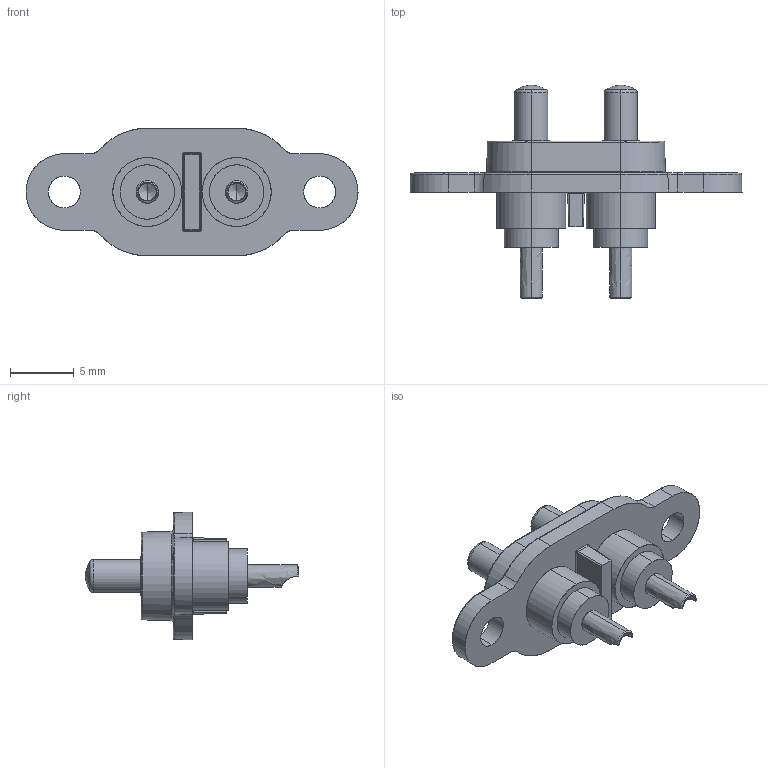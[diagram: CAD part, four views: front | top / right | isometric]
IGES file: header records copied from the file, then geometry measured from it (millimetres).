
Start section: SolidWorks IGES file using analytic representation for surfaces
Global section: file name: F:\OneDrive\Desktop\Coda\28.7\Swift-Dock add 3D\Swift-Dock add 3D\Swift-DOCK Ranges Completed\SD-POWER\SD-POWER-2-SC-PRO.IGS; native system: SolidWorks 2021; preprocessor: SolidWorks 2021; author: Georg; date: 210802.121041; units: millimetre
Bounding box: 26 x 16.69 x 10 mm (x, y, z)
Surface area: 1095.3 mm2 (no closed solid volume)
Topology: 0 solids, 0 shells, 157 faces, 1926 edges, 1921 vertices
Faces by surface type: revolution 102, bspline 55
